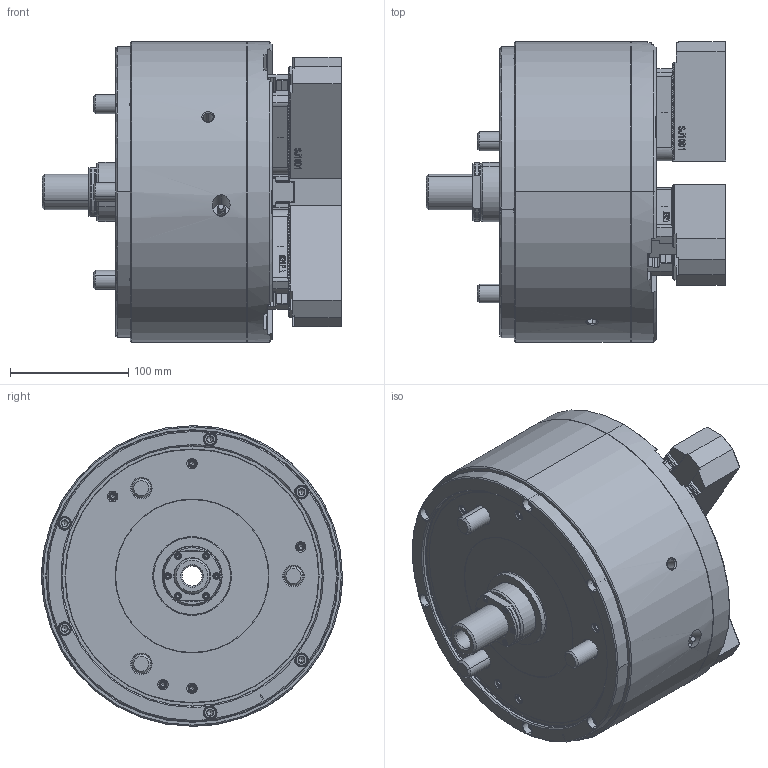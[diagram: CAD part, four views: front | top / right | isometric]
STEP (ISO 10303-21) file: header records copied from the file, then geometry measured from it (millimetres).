
FILE_DESCRIPTION (( 'STEP AP214' ), '1' );
FILE_NAME ('DL210_UC_ID.STEP', '2022-09-08T02:28:01', ( '' ), ( '' ), 'SwSTEP 2.0', 'SolidWorks 2020', '' );
FILE_SCHEMA (( 'AUTOMOTIVE_DESIGN' ));
Length unit declared in the file: millimetre
Products named in the file (5): DL210_UC_ID; 61P458879; 結合DL210_UC_ID^DL210; 61P390757; 0030114040
Assembly tree (13 placements, depth 2):
  DL210_UC_ID
    61P390757  x3
    61P458879  x3
    0030114040  x6
    結合DL210_UC_ID^DL210
Bounding box: 253.3 x 254.12 x 254 mm (x, y, z)
Volume: 7078976.7 mm3; surface area: 474309 mm2
Topology: 13 solids, 57 shells, 6025 faces, 16571 edges, 10789 vertices
Faces by surface type: plane 3775, cylinder 824, bspline 710, cone 678, torus 38
Entity records: 176111 total; most frequent: CARTESIAN_POINT 59300, ORIENTED_EDGE 26410, DIRECTION 20661, EDGE_CURVE 13205, VECTOR 8987, LINE 8987, VERTEX_POINT 8674, AXIS2_PLACEMENT_3D 5837
